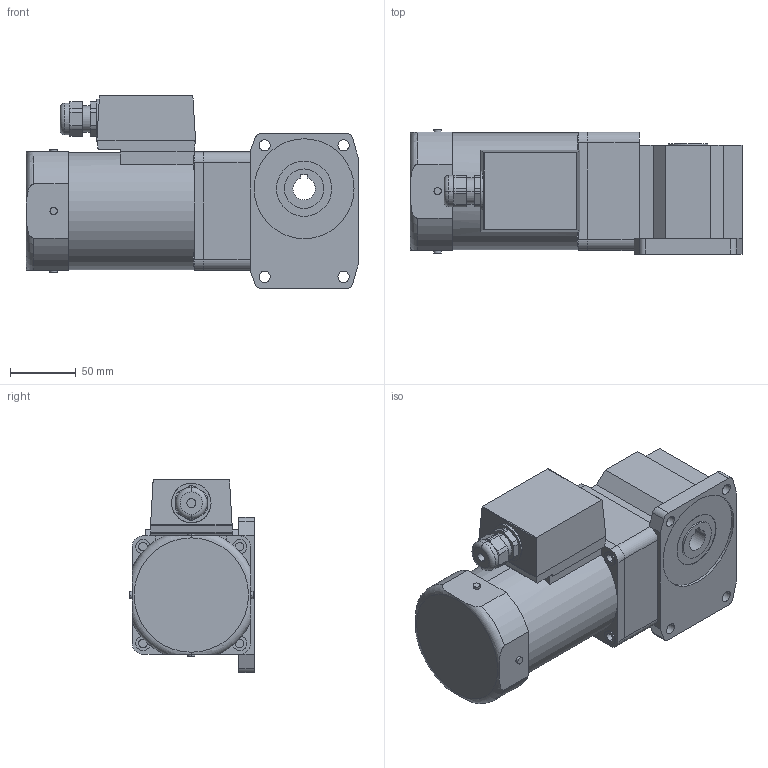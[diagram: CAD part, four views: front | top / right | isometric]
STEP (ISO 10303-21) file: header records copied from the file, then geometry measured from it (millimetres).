
FILE_DESCRIPTION(('starvars output'),'2;1');
FILE_NAME('5RK90GE-AW2TU _ 5GE180RH.stp','13:55:25 2015/05/11',( 'Thomas Industrial Network Germany GmbH'),( 'Thomas Industrial Network Germany GmbH'),'unknown preprocess','ACIS' ,'unknown authorization');
FILE_SCHEMA(('AUTOMOTIVE_DESIGN_CC2 {UNKNOWN IMPLEMENTATION LEVEL}'));
Length unit declared in the file: millimetre
Products named in the file (1): PRODUCT_ID_683
Bounding box: 252.5 x 95 x 147 mm (x, y, z)
Volume: 1952138.9 mm3; surface area: 127924.9 mm2
Topology: 1 solids, 1 shells, 224 faces, 564 edges, 370 vertices
Faces by surface type: plane 112, cylinder 100, torus 12
Entity records: 8178 total; most frequent: CARTESIAN_POINT 1365, ORIENTED_EDGE 1128, DIRECTION 892, EDGE_CURVE 564, VERTEX_POINT 370, VECTOR 318, LINE 318, AXIS2_PLACEMENT_3D 287
